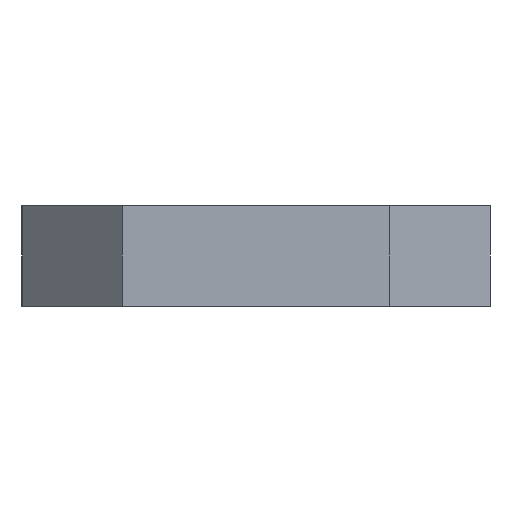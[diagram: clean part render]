
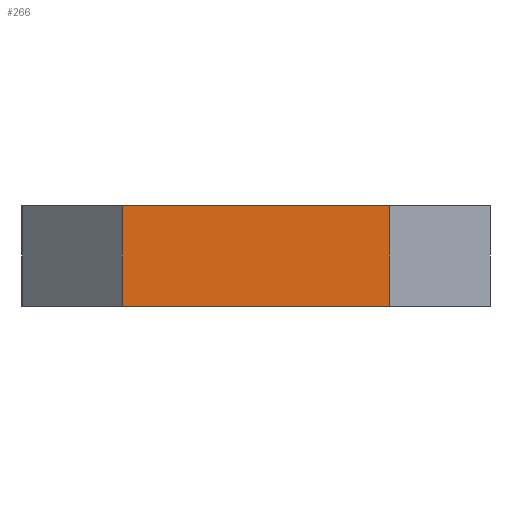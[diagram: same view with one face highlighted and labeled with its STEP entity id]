
A CAD part, front view. The second image highlights one B-rep face of the part: STEP entity #266.
In plain terms, the highlighted planar face has unit normal (0, -1, 0).
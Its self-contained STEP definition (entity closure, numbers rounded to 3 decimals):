
#10 = ORIENTED_EDGE ( 'NONE', *, *, #349, .T. ) ;
#38 = CARTESIAN_POINT ( 'NONE',  ( -4., -503.75, 0. ) ) ;
#47 = LINE ( 'NONE', #99, #115 ) ;
#59 = ORIENTED_EDGE ( 'NONE', *, *, #362, .T. ) ;
#74 = LINE ( 'NONE', #395, #229 ) ;
#77 = LINE ( 'NONE', #217, #363 ) ;
#88 = EDGE_CURVE ( 'NONE', #296, #241, #74, .T. ) ;
#96 = VECTOR ( 'NONE', #172, 1000. ) ;
#99 = CARTESIAN_POINT ( 'NONE',  ( -7., -503.75, 0. ) ) ;
#100 = DIRECTION ( 'NONE',  ( 1., 0., 0. ) ) ;
#109 = ORIENTED_EDGE ( 'NONE', *, *, #88, .T. ) ;
#110 = VERTEX_POINT ( 'NONE', #372 ) ;
#113 = DIRECTION ( 'NONE',  ( 0., 0., 1. ) ) ;
#115 = VECTOR ( 'NONE', #100, 1000. ) ;
#165 = AXIS2_PLACEMENT_3D ( 'NONE', #330, #195, #194 ) ;
#172 = DIRECTION ( 'NONE',  ( 0., 0., -1. ) ) ;
#194 = DIRECTION ( 'NONE',  ( 0., 0., -1. ) ) ;
#195 = DIRECTION ( 'NONE',  ( 0., -1., 0. ) ) ;
#209 = PLANE ( 'NONE',  #165 ) ;
#217 = CARTESIAN_POINT ( 'NONE',  ( 4., -503.75, -3. ) ) ;
#219 = ORIENTED_EDGE ( 'NONE', *, *, #378, .F. ) ;
#225 = LINE ( 'NONE', #422, #96 ) ;
#229 = VECTOR ( 'NONE', #388, 1000. ) ;
#240 = VERTEX_POINT ( 'NONE', #38 ) ;
#241 = VERTEX_POINT ( 'NONE', #421 ) ;
#264 = CARTESIAN_POINT ( 'NONE',  ( -4., -503.75, -3. ) ) ;
#266 = ADVANCED_FACE ( 'NONE', ( #280 ), #209, .T. ) ;
#273 = EDGE_LOOP ( 'NONE', ( #219, #10, #109, #59 ) ) ;
#280 = FACE_OUTER_BOUND ( 'NONE', #273, .T. ) ;
#296 = VERTEX_POINT ( 'NONE', #264 ) ;
#330 = CARTESIAN_POINT ( 'NONE',  ( -7., -503.75, -3. ) ) ;
#349 = EDGE_CURVE ( 'NONE', #240, #296, #225, .T. ) ;
#362 = EDGE_CURVE ( 'NONE', #241, #110, #77, .T. ) ;
#363 = VECTOR ( 'NONE', #113, 1000. ) ;
#372 = CARTESIAN_POINT ( 'NONE',  ( 4., -503.75, 0. ) ) ;
#378 = EDGE_CURVE ( 'NONE', #240, #110, #47, .T. ) ;
#388 = DIRECTION ( 'NONE',  ( 1., 0., 0. ) ) ;
#395 = CARTESIAN_POINT ( 'NONE',  ( -7., -503.75, -3. ) ) ;
#421 = CARTESIAN_POINT ( 'NONE',  ( 4., -503.75, -3. ) ) ;
#422 = CARTESIAN_POINT ( 'NONE',  ( -4., -503.75, -3. ) ) ;
